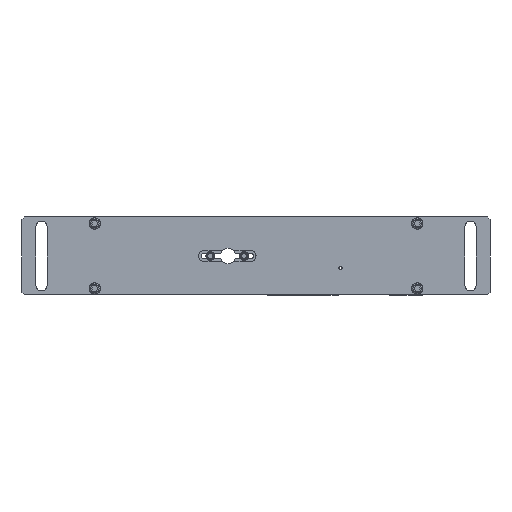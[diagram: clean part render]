
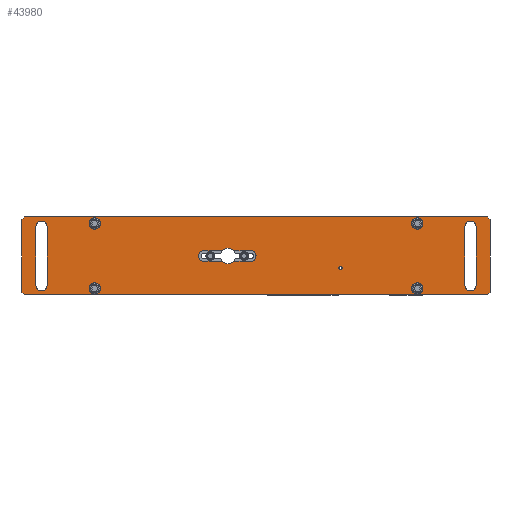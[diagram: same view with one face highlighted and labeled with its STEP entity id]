
A CAD part, front view. The second image highlights one B-rep face of the part: STEP entity #43980.
In plain terms, the highlighted planar face has unit normal (0, -1, 0) as drawn and (0, 0, 1) by its records, which use the part's own axes.
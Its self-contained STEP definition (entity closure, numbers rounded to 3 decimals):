
#1329=CIRCLE('',#45768,4.25);
#1330=CIRCLE('',#45769,4.25);
#1331=CIRCLE('',#45770,4.25);
#1332=CIRCLE('',#45771,4.25);
#1333=CIRCLE('',#45772,1.23);
#1334=CIRCLE('',#45773,6.);
#1335=CIRCLE('',#45774,4.15);
#1336=CIRCLE('',#45775,6.);
#1337=CIRCLE('',#45776,4.15);
#1338=CIRCLE('',#45777,4.35);
#1339=CIRCLE('',#45778,4.35);
#1340=CIRCLE('',#45779,4.35);
#1341=CIRCLE('',#45780,4.35);
#2801=ORIENTED_EDGE('',*,*,#13103,.F.);
#2802=ORIENTED_EDGE('',*,*,#13104,.F.);
#2803=ORIENTED_EDGE('',*,*,#13105,.F.);
#2804=ORIENTED_EDGE('',*,*,#13106,.F.);
#2805=ORIENTED_EDGE('',*,*,#13107,.F.);
#2806=ORIENTED_EDGE('',*,*,#13108,.F.);
#2807=ORIENTED_EDGE('',*,*,#13109,.F.);
#2808=ORIENTED_EDGE('',*,*,#13110,.F.);
#2809=ORIENTED_EDGE('',*,*,#13111,.T.);
#2810=ORIENTED_EDGE('',*,*,#13112,.F.);
#2811=ORIENTED_EDGE('',*,*,#13092,.T.);
#2812=ORIENTED_EDGE('',*,*,#13113,.T.);
#2813=ORIENTED_EDGE('',*,*,#13114,.T.);
#2814=ORIENTED_EDGE('',*,*,#13115,.F.);
#2815=ORIENTED_EDGE('',*,*,#13096,.T.);
#2816=ORIENTED_EDGE('',*,*,#13116,.T.);
#2817=ORIENTED_EDGE('',*,*,#13117,.T.);
#2818=ORIENTED_EDGE('',*,*,#13118,.T.);
#2819=ORIENTED_EDGE('',*,*,#13119,.T.);
#2820=ORIENTED_EDGE('',*,*,#13120,.T.);
#2821=ORIENTED_EDGE('',*,*,#13121,.T.);
#2822=ORIENTED_EDGE('',*,*,#13122,.T.);
#2823=ORIENTED_EDGE('',*,*,#13123,.T.);
#2824=ORIENTED_EDGE('',*,*,#13124,.T.);
#2825=ORIENTED_EDGE('',*,*,#13125,.T.);
#2826=ORIENTED_EDGE('',*,*,#13126,.T.);
#2827=ORIENTED_EDGE('',*,*,#13127,.T.);
#2828=ORIENTED_EDGE('',*,*,#13128,.T.);
#2829=ORIENTED_EDGE('',*,*,#13129,.T.);
#13092=EDGE_CURVE('',#18242,#18244,#21692,.T.);
#13096=EDGE_CURVE('',#18246,#18248,#21696,.T.);
#13103=EDGE_CURVE('',#18253,#18254,#1329,.T.);
#13104=EDGE_CURVE('',#18255,#18253,#21699,.T.);
#13105=EDGE_CURVE('',#18256,#18255,#1330,.T.);
#13106=EDGE_CURVE('',#18254,#18256,#21700,.T.);
#13107=EDGE_CURVE('',#18257,#18258,#1331,.T.);
#13108=EDGE_CURVE('',#18259,#18257,#21701,.T.);
#13109=EDGE_CURVE('',#18260,#18259,#1332,.T.);
#13110=EDGE_CURVE('',#18258,#18260,#21702,.T.);
#13111=EDGE_CURVE('',#18261,#18261,#1333,.T.);
#13112=EDGE_CURVE('',#18242,#18262,#1334,.T.);
#13113=EDGE_CURVE('',#18244,#18263,#1335,.T.);
#13114=EDGE_CURVE('',#18263,#18264,#21703,.T.);
#13115=EDGE_CURVE('',#18246,#18264,#1336,.T.);
#13116=EDGE_CURVE('',#18248,#18265,#1337,.T.);
#13117=EDGE_CURVE('',#18265,#18262,#21704,.T.);
#13118=EDGE_CURVE('',#18266,#18267,#21705,.T.);
#13119=EDGE_CURVE('',#18267,#18268,#21706,.F.);
#13120=EDGE_CURVE('',#18268,#18269,#21707,.T.);
#13121=EDGE_CURVE('',#18269,#18270,#21708,.F.);
#13122=EDGE_CURVE('',#18270,#18271,#21709,.T.);
#13123=EDGE_CURVE('',#18271,#18272,#21710,.F.);
#13124=EDGE_CURVE('',#18272,#18273,#21711,.T.);
#13125=EDGE_CURVE('',#18273,#18266,#21712,.F.);
#13126=EDGE_CURVE('',#18274,#18274,#1338,.T.);
#13127=EDGE_CURVE('',#18275,#18275,#1339,.T.);
#13128=EDGE_CURVE('',#18276,#18276,#1340,.T.);
#13129=EDGE_CURVE('',#18277,#18277,#1341,.T.);
#18242=VERTEX_POINT('',#59349);
#18244=VERTEX_POINT('',#59353);
#18246=VERTEX_POINT('',#59358);
#18248=VERTEX_POINT('',#59362);
#18253=VERTEX_POINT('',#59377);
#18254=VERTEX_POINT('',#59378);
#18255=VERTEX_POINT('',#59380);
#18256=VERTEX_POINT('',#59382);
#18257=VERTEX_POINT('',#59385);
#18258=VERTEX_POINT('',#59386);
#18259=VERTEX_POINT('',#59388);
#18260=VERTEX_POINT('',#59390);
#18261=VERTEX_POINT('',#59393);
#18262=VERTEX_POINT('',#59395);
#18263=VERTEX_POINT('',#59397);
#18264=VERTEX_POINT('',#59399);
#18265=VERTEX_POINT('',#59402);
#18266=VERTEX_POINT('',#59405);
#18267=VERTEX_POINT('',#59406);
#18268=VERTEX_POINT('',#59408);
#18269=VERTEX_POINT('',#59410);
#18270=VERTEX_POINT('',#59412);
#18271=VERTEX_POINT('',#59414);
#18272=VERTEX_POINT('',#59416);
#18273=VERTEX_POINT('',#59418);
#18274=VERTEX_POINT('',#59421);
#18275=VERTEX_POINT('',#59423);
#18276=VERTEX_POINT('',#59425);
#18277=VERTEX_POINT('',#59427);
#21692=LINE('',#59354,#24981);
#21696=LINE('',#59363,#24985);
#21699=LINE('',#59379,#24988);
#21700=LINE('',#59383,#24989);
#21701=LINE('',#59387,#24990);
#21702=LINE('',#59391,#24991);
#21703=LINE('',#59398,#24992);
#21704=LINE('',#59403,#24993);
#21705=LINE('',#59404,#24994);
#21706=LINE('',#59407,#24995);
#21707=LINE('',#59409,#24996);
#21708=LINE('',#59411,#24997);
#21709=LINE('',#59413,#24998);
#21710=LINE('',#59415,#24999);
#21711=LINE('',#59417,#25000);
#21712=LINE('',#59419,#25001);
#24981=VECTOR('',#49203,1000.);
#24985=VECTOR('',#49209,1000.);
#24988=VECTOR('',#49226,1000.);
#24989=VECTOR('',#49229,1000.);
#24990=VECTOR('',#49232,1000.);
#24991=VECTOR('',#49235,1000.);
#24992=VECTOR('',#49242,1000.);
#24993=VECTOR('',#49247,1000.);
#24994=VECTOR('',#49248,1000.);
#24995=VECTOR('',#49249,1000.);
#24996=VECTOR('',#49250,1000.);
#24997=VECTOR('',#49251,1000.);
#24998=VECTOR('',#49252,1000.);
#24999=VECTOR('',#49253,1000.);
#25000=VECTOR('',#49254,1000.);
#25001=VECTOR('',#49255,1000.);
#28264=EDGE_LOOP('',(#2801,#2802,#2803,#2804));
#28265=EDGE_LOOP('',(#2805,#2806,#2807,#2808));
#28266=EDGE_LOOP('',(#2809));
#28267=EDGE_LOOP('',(#2810,#2811,#2812,#2813,#2814,#2815,#2816,#2817));
#28268=EDGE_LOOP('',(#2818,#2819,#2820,#2821,#2822,#2823,#2824,#2825));
#28269=EDGE_LOOP('',(#2826));
#28270=EDGE_LOOP('',(#2827));
#28271=EDGE_LOOP('',(#2828));
#28272=EDGE_LOOP('',(#2829));
#30088=FACE_BOUND('',#28264,.T.);
#30089=FACE_BOUND('',#28265,.T.);
#30090=FACE_BOUND('',#28266,.T.);
#30091=FACE_BOUND('',#28267,.T.);
#30092=FACE_BOUND('',#28268,.T.);
#30093=FACE_BOUND('',#28269,.T.);
#30094=FACE_BOUND('',#28270,.T.);
#30095=FACE_BOUND('',#28271,.T.);
#30096=FACE_BOUND('',#28272,.T.);
#31912=PLANE('',#45767);
#43980=ADVANCED_FACE('',(#30088,#30089,#30090,#30091,#30092,#30093,#30094,
#30095,#30096),#31912,.T.);
#45767=AXIS2_PLACEMENT_3D('',#59375,#49222,#49223);
#45768=AXIS2_PLACEMENT_3D('',#59376,#49224,#49225);
#45769=AXIS2_PLACEMENT_3D('',#59381,#49227,#49228);
#45770=AXIS2_PLACEMENT_3D('',#59384,#49230,#49231);
#45771=AXIS2_PLACEMENT_3D('',#59389,#49233,#49234);
#45772=AXIS2_PLACEMENT_3D('',#59392,#49236,#49237);
#45773=AXIS2_PLACEMENT_3D('',#59394,#49238,#49239);
#45774=AXIS2_PLACEMENT_3D('',#59396,#49240,#49241);
#45775=AXIS2_PLACEMENT_3D('',#59400,#49243,#49244);
#45776=AXIS2_PLACEMENT_3D('',#59401,#49245,#49246);
#45777=AXIS2_PLACEMENT_3D('',#59420,#49256,#49257);
#45778=AXIS2_PLACEMENT_3D('',#59422,#49258,#49259);
#45779=AXIS2_PLACEMENT_3D('',#59424,#49260,#49261);
#45780=AXIS2_PLACEMENT_3D('',#59426,#49262,#49263);
#49203=DIRECTION('',(1.,0.,0.));
#49209=DIRECTION('',(-1.,0.,0.));
#49222=DIRECTION('',(0.,0.,1.));
#49223=DIRECTION('',(1.,0.,0.));
#49224=DIRECTION('',(0.,0.,1.));
#49225=DIRECTION('',(1.,0.,0.));
#49226=DIRECTION('',(0.,1.,0.));
#49227=DIRECTION('',(0.,0.,1.));
#49228=DIRECTION('',(-1.,0.,0.));
#49229=DIRECTION('',(0.,-1.,0.));
#49230=DIRECTION('',(0.,0.,1.));
#49231=DIRECTION('',(0.,-1.,0.));
#49232=DIRECTION('',(0.,1.,0.));
#49233=DIRECTION('',(0.,0.,1.));
#49234=DIRECTION('',(-1.,0.,0.));
#49235=DIRECTION('',(0.,-1.,0.));
#49236=DIRECTION('',(0.,0.,-1.));
#49237=DIRECTION('',(0.,-1.,0.));
#49238=DIRECTION('',(0.,0.,1.));
#49239=DIRECTION('',(1.,0.,0.));
#49240=DIRECTION('',(0.,0.,-1.));
#49241=DIRECTION('',(-1.,0.,0.));
#49242=DIRECTION('',(-1.,0.,0.));
#49243=DIRECTION('',(0.,0.,1.));
#49244=DIRECTION('',(1.,0.,0.));
#49245=DIRECTION('',(0.,0.,-1.));
#49246=DIRECTION('',(1.,0.,0.));
#49247=DIRECTION('',(1.,0.,0.));
#49248=DIRECTION('',(1.,0.,0.));
#49249=DIRECTION('',(-0.707,-0.707,0.));
#49250=DIRECTION('',(0.,1.,0.));
#49251=DIRECTION('',(0.707,-0.707,0.));
#49252=DIRECTION('',(-1.,0.,0.));
#49253=DIRECTION('',(0.707,0.707,0.));
#49254=DIRECTION('',(0.,-1.,0.));
#49255=DIRECTION('',(-0.707,0.707,0.));
#49256=DIRECTION('',(0.,0.,-1.));
#49257=DIRECTION('',(0.,-1.,0.));
#49258=DIRECTION('',(0.,0.,-1.));
#49259=DIRECTION('',(0.,-1.,0.));
#49260=DIRECTION('',(0.,0.,-1.));
#49261=DIRECTION('',(0.,-1.,0.));
#49262=DIRECTION('',(0.,0.,-1.));
#49263=DIRECTION('',(0.,-1.,0.));
#59349=CARTESIAN_POINT('',(25.833,4.15,0.));
#59353=CARTESIAN_POINT('',(40.1,4.15,0.));
#59354=CARTESIAN_POINT('',(4.1,4.15,0.));
#59358=CARTESIAN_POINT('',(17.167,-4.15,0.));
#59362=CARTESIAN_POINT('',(4.1,-4.15,0.));
#59363=CARTESIAN_POINT('',(40.1,-4.15,0.));
#59375=CARTESIAN_POINT('',(-180.,-30.,0.));
#59376=CARTESIAN_POINT('',(165.,22.5,0.));
#59377=CARTESIAN_POINT('',(169.25,22.5,0.));
#59378=CARTESIAN_POINT('',(160.75,22.5,0.));
#59379=CARTESIAN_POINT('',(169.25,-22.5,0.));
#59380=CARTESIAN_POINT('',(169.25,-22.5,0.));
#59381=CARTESIAN_POINT('',(165.,-22.5,0.));
#59382=CARTESIAN_POINT('',(160.75,-22.5,0.));
#59383=CARTESIAN_POINT('',(160.75,22.5,0.));
#59384=CARTESIAN_POINT('',(-165.,22.5,0.));
#59385=CARTESIAN_POINT('',(-160.75,22.5,0.));
#59386=CARTESIAN_POINT('',(-169.25,22.5,0.));
#59387=CARTESIAN_POINT('',(-160.75,-22.5,0.));
#59388=CARTESIAN_POINT('',(-160.75,-22.5,0.));
#59389=CARTESIAN_POINT('',(-165.,-22.5,0.));
#59390=CARTESIAN_POINT('',(-169.25,-22.5,0.));
#59391=CARTESIAN_POINT('',(-169.25,22.5,0.));
#59392=CARTESIAN_POINT('',(-65.,9.,0.));
#59393=CARTESIAN_POINT('',(-65.,7.771,0.));
#59394=CARTESIAN_POINT('',(21.5,0.,0.));
#59395=CARTESIAN_POINT('',(17.167,4.15,0.));
#59396=CARTESIAN_POINT('',(40.1,0.,0.));
#59397=CARTESIAN_POINT('',(40.1,-4.15,0.));
#59398=CARTESIAN_POINT('',(40.1,-4.15,0.));
#59399=CARTESIAN_POINT('',(25.833,-4.15,0.));
#59400=CARTESIAN_POINT('',(21.5,0.,0.));
#59401=CARTESIAN_POINT('',(4.1,0.,0.));
#59402=CARTESIAN_POINT('',(4.1,4.15,0.));
#59403=CARTESIAN_POINT('',(4.1,4.15,0.));
#59404=CARTESIAN_POINT('',(-180.,-30.,0.));
#59405=CARTESIAN_POINT('',(-178.,-30.,0.));
#59406=CARTESIAN_POINT('',(178.,-30.,0.));
#59407=CARTESIAN_POINT('',(-1.,-209.,0.));
#59408=CARTESIAN_POINT('',(180.,-28.,0.));
#59409=CARTESIAN_POINT('',(180.,-30.,0.));
#59410=CARTESIAN_POINT('',(180.,28.,0.));
#59411=CARTESIAN_POINT('',(29.,179.,0.));
#59412=CARTESIAN_POINT('',(178.,30.,0.));
#59413=CARTESIAN_POINT('',(180.,30.,0.));
#59414=CARTESIAN_POINT('',(-178.,30.,0.));
#59415=CARTESIAN_POINT('',(-209.,-1.,0.));
#59416=CARTESIAN_POINT('',(-180.,28.,0.));
#59417=CARTESIAN_POINT('',(-180.,30.,0.));
#59418=CARTESIAN_POINT('',(-180.,-28.,0.));
#59419=CARTESIAN_POINT('',(-179.,-29.,0.));
#59420=CARTESIAN_POINT('',(-124.,25.,0.));
#59421=CARTESIAN_POINT('',(-124.,20.65,0.));
#59422=CARTESIAN_POINT('',(124.,25.,0.));
#59423=CARTESIAN_POINT('',(124.,20.65,0.));
#59424=CARTESIAN_POINT('',(124.,-25.,0.));
#59425=CARTESIAN_POINT('',(124.,-29.35,0.));
#59426=CARTESIAN_POINT('',(-124.,-25.,0.));
#59427=CARTESIAN_POINT('',(-124.,-29.35,0.));
